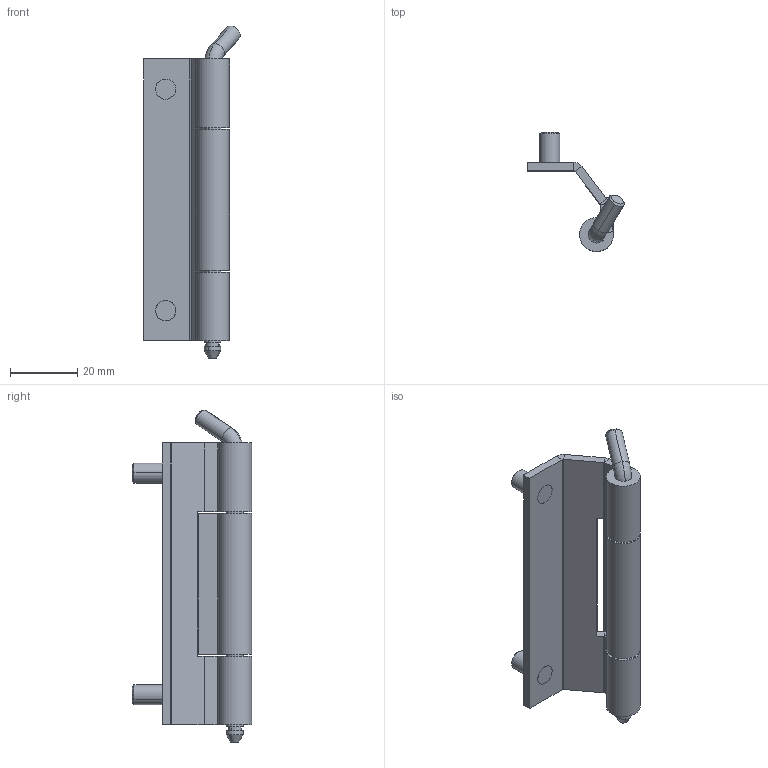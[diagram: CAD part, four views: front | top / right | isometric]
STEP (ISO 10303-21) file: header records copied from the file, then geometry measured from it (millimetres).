
FILE_DESCRIPTION (( 'STEP AP214' ), '1' );
FILE_NAME ('3.ST19.001.STEP', '2010-03-02T17:38:45', ( 'Piotr Zieliñski' ), ( 'Roztocze Z.U.P.' ), 'SwSTEP 2.0', 'SolidWorks 2004231', '' );
FILE_SCHEMA (( 'AUTOMOTIVE_DESIGN' ));
Length unit declared in the file: millimetre
Products named in the file (5): 3.ST19.001.02; 3.ST19.001.01; 3.ST19.001.03; Szpilka M6x11,5; 3.ST19.001
Assembly tree (5 placements, depth 2):
  3.ST19.001
    3.ST19.001.03
    3.ST19.001.02
    Szpilka M6x11,5  x2
    3.ST19.001.01
Bounding box: 28.72 x 35.59 x 98.92 mm (x, y, z)
Volume: 14275.3 mm3; surface area: 12807 mm2
Topology: 5 solids, 5 shells, 86 faces, 176 edges, 102 vertices
Faces by surface type: plane 48, cylinder 28, cone 8, torus 2
Entity records: 2250 total; most frequent: DIRECTION 404, CARTESIAN_POINT 350, ORIENTED_EDGE 332, EDGE_CURVE 166, AXIS2_PLACEMENT_3D 150, VECTOR 104, LINE 104, VERTEX_POINT 96
